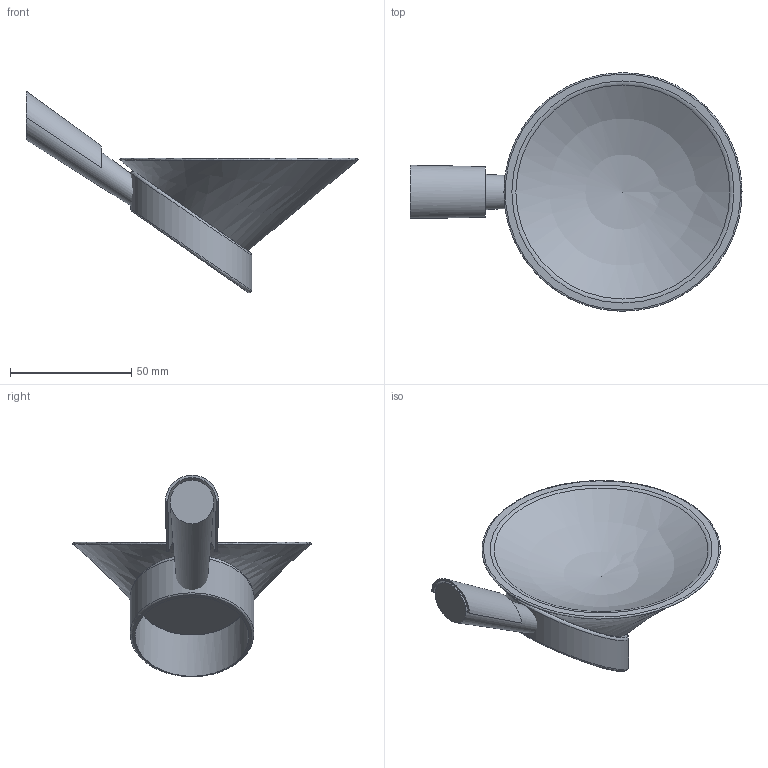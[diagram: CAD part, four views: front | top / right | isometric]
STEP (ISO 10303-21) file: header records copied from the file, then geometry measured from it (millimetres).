
FILE_DESCRIPTION(('STEP AP242'), '1');
FILE_NAME('73CR021VR', '', ('UNSPECIFIED'), ('UNSPECIFIED'), 'ASCON STEP Converter 1.6', 'ASCON Math Kernel', '');
FILE_SCHEMA(('AP242_MANAGED_MODEL_BASED_3D_ENGINEERING_MIM_LF { 1 0 10303 442 1 1 4 }'));
Length unit declared in the file: millimetre
Bounding box: 136.88 x 98.22 x 83.08 mm (x, y, z)
Volume: 81919.4 mm3; surface area: 29168.2 mm2
Topology: 3 solids, 3 shells, 21 faces, 45 edges, 28 vertices
Faces by surface type: plane 10, bspline 9, sphere 1, torus 1
Entity records: 4973 total; most frequent: CARTESIAN_POINT 4421, ORIENTED_EDGE 64, DIRECTION 50, EDGE_LOOP 32, EDGE_CURVE 32, COLOUR_RGB 24, FILL_AREA_STYLE_COLOUR 24, FILL_AREA_STYLE 24
